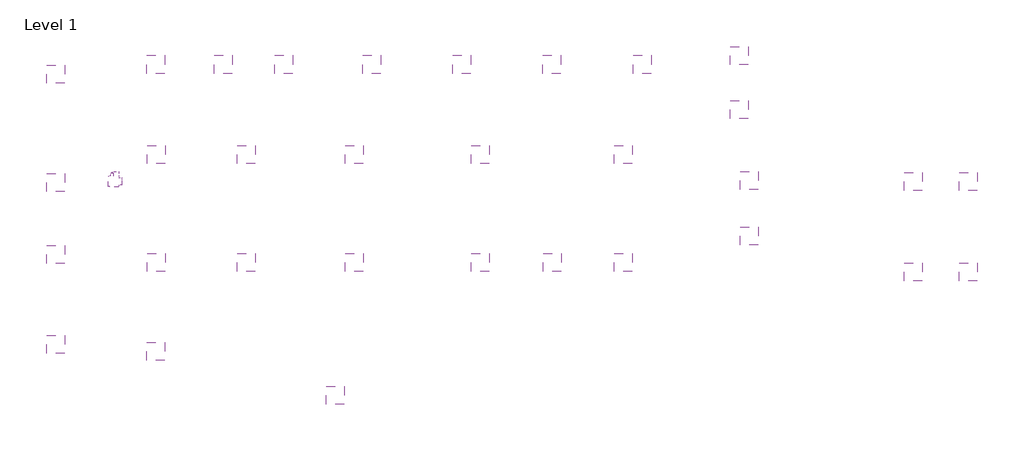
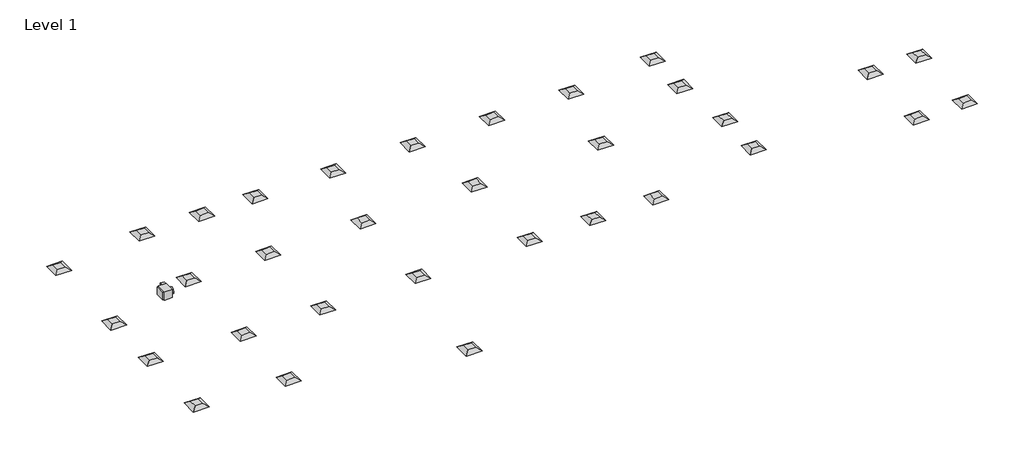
# One storey: 32 air terminals, 1 proxy.
"""IFC4 building model written with IfcOpenShell, lengths in millimetres."""

import ifcopenshell
import ifcopenshell.guid

model = None  # the IFC model being written
_history = None  # IfcOwnerHistory: only IFC2X3 demands one
_inside = {}  # id of a spatial element -> (the spatial element, [elements in it])
_under = {}  # id of a project, library or spatial element -> (it, [spatial elements below it])
_declared = {}  # id of a project -> (the project, [libraries it declares])
_typed = {}  # id of a type object -> (the type object, [elements of that type])
_made_of = {}  # id of a material, layer set ... -> (it, [elements and type objects made of it])


def new_model(schema):
    """Start an empty IFC model of exactly this schema.

    Asked for "IFC4X3", IfcOpenShell would pick the latest addendum, in which some entities
    have other attributes; the version numbers below select the first issue.
    IFC2X3 requires an IfcOwnerHistory on every rooted entity: one is made here for all.
    """
    global model, _history
    if schema == "IFC4X3":
        model = ifcopenshell.file(schema_version=(4, 3, 0, 0))
    else:
        model = ifcopenshell.file(schema=schema)
    _inside.clear()
    _under.clear()
    _declared.clear()
    _typed.clear()
    _made_of.clear()
    _history = None
    if model.schema == "IFC2X3":
        org = make("IfcOrganization", Name="unknown")
        user = make(
            "IfcPersonAndOrganization",
            ThePerson=make("IfcPerson", FamilyName="unknown"),
            TheOrganization=org,
        )
        app = make(
            "IfcApplication",
            ApplicationDeveloper=org,
            Version="unknown",
            ApplicationFullName="unknown",
            ApplicationIdentifier="unknown",
        )
        _history = make(
            "IfcOwnerHistory",
            OwningUser=user,
            OwningApplication=app,
            ChangeAction="ADDED",
            CreationDate=0,
        )
    return model


def make(cls, **values):
    """One entity of the class cls with the attributes given. An attribute that is None is left unset."""
    return model.create_entity(
        cls, **{name: value for name, value in values.items() if value is not None}
    )


def rooted(cls, **values):
    """An entity with a GlobalId (a new one), such as an element, a storey or a relation."""
    return make(cls, GlobalId=ifcopenshell.guid.new(), OwnerHistory=_history, **values)


def si_unit(unit_type, name, prefix=None):
    """IfcSIUnit, for example si_unit("LENGTHUNIT", "METRE", prefix="MILLI")."""
    return make("IfcSIUnit", UnitType=unit_type, Prefix=prefix, Name=name)


def assignment(units):
    """IfcUnitAssignment: the units of a project."""
    return None if units is None else make("IfcUnitAssignment", Units=units)


def point(xyz):
    """IfcCartesianPoint."""
    return None if xyz is None else make("IfcCartesianPoint", Coordinates=xyz)


def direction(xyz):
    """IfcDirection."""
    return None if xyz is None else make("IfcDirection", DirectionRatios=xyz)


def frame(location, z_axis=None, x_axis=None):
    """IfcAxis2Placement3D, a coordinate frame: its origin and axes. An axis left out is left unset."""
    return make(
        "IfcAxis2Placement3D",
        Location=point(location),
        Axis=direction(z_axis),
        RefDirection=direction(x_axis),
    )


def origin():
    """The frame at (0, 0, 0) with its axes left unset."""
    return frame((0.0, 0.0, 0.0))


def origin_with_axes():
    """The frame at (0, 0, 0) with the z axis (0, 0, 1) and the x axis (1, 0, 0) written out."""
    return frame((0.0, 0.0, 0.0), z_axis=(0.0, 0.0, 1.0), x_axis=(1.0, 0.0, 0.0))


def place(relative_to, where):
    """IfcLocalPlacement: puts the frame where relative to a parent placement (None: the world)."""
    return make(
        "IfcLocalPlacement", PlacementRelTo=relative_to, RelativePlacement=where
    )


def context(
    kind, dimensions, precision=None, world=None, true_north=None, identifier=None
):
    """IfcGeometricRepresentationContext, for example the 3D "Model" context."""
    return make(
        "IfcGeometricRepresentationContext",
        ContextIdentifier=identifier,
        ContextType=kind,
        CoordinateSpaceDimension=dimensions,
        Precision=precision,
        WorldCoordinateSystem=world,
        TrueNorth=true_north,
    )


def project(units=None, contexts=None):
    """IfcProject with its units and contexts."""
    return rooted(
        "IfcProject",
        Name="project",
        RepresentationContexts=contexts,
        UnitsInContext=assignment(units),
    )


def spatial(cls, under=None, at=None, **own):
    """A site, building, storey or space (cls), placed at a placement, below another one or the project."""
    s = rooted(cls, ObjectPlacement=at, **own)
    if under is not None:
        _under.setdefault(under.id(), (under, []))[1].append(s)
    return s


def polyline(points):
    """IfcPolyline through the points."""
    return make("IfcPolyline", Points=[point(p) for p in points])


def circle_curve(where, radius):
    """IfcCircle in the frame where."""
    return make("IfcCircle", Position=where, Radius=radius)


def outline(outer, holes=None, kind="AREA"):
    """IfcArbitraryClosedProfileDef: a profile drawn as a closed curve; with holes, ...WithVoids."""
    if holes is None:
        return make("IfcArbitraryClosedProfileDef", ProfileType=kind, OuterCurve=outer)
    return make(
        "IfcArbitraryProfileDefWithVoids",
        ProfileType=kind,
        OuterCurve=outer,
        InnerCurves=holes,
    )


def extrude(swept, where, along, depth):
    """IfcExtrudedAreaSolid: the profile swept, set in the frame where, extruded along a direction by depth."""
    return make(
        "IfcExtrudedAreaSolid",
        SweptArea=swept,
        Position=where,
        ExtrudedDirection=direction(along),
        Depth=depth,
    )


def faces_of(points, faces, orient=None, outer=None):
    """IfcFace entities. A face is a list of loops; a loop is a list of indices into points, from 0.

    orient and outer hold one flag for each loop. By default every Orientation is true, the
    first loop of a face is its IfcFaceOuterBound and the others are IfcFaceBound.
    """
    made = []
    for i, loops in enumerate(faces):
        bounds = []
        for j, loop in enumerate(loops):
            is_outer = j == 0 if outer is None else outer[i][j]
            bounds.append(
                make(
                    "IfcFaceOuterBound" if is_outer else "IfcFaceBound",
                    Bound=make("IfcPolyLoop", Polygon=[points[k] for k in loop]),
                    Orientation=True if orient is None else orient[i][j],
                )
            )
        made.append(make("IfcFace", Bounds=bounds))
    return made


def faceted_brep(points, faces, orient=None, outer=None, voids=None):
    """IfcFacetedBrep: a solid bounded by flat faces; with voids (closed shells), ...WithVoids."""
    shared = [point(p) for p in points]
    hull = make("IfcClosedShell", CfsFaces=faces_of(shared, faces, orient, outer))
    if voids is None:
        return make("IfcFacetedBrep", Outer=hull)
    return make(
        "IfcFacetedBrepWithVoids",
        Outer=hull,
        Voids=[
            make(cls, CfsFaces=faces_of(shared, fs, o, b)) for cls, fs, o, b in voids
        ],
    )


def shape(context_of_items, identifier, shape_type, items):
    """IfcShapeRepresentation: the items that make up one representation, for example the "Body"."""
    return make(
        "IfcShapeRepresentation",
        ContextOfItems=context_of_items,
        RepresentationIdentifier=identifier,
        RepresentationType=shape_type,
        Items=items,
    )


def source(mapping_origin, context_of_items, identifier, shape_type, items):
    """IfcRepresentationMap: a shape defined once, which mapped items show again and again."""
    return make(
        "IfcRepresentationMap",
        MappingOrigin=mapping_origin,
        MappedRepresentation=shape(context_of_items, identifier, shape_type, items),
    )


def transform(
    local_origin,
    x_axis=None,
    y_axis=None,
    z_axis=None,
    scale=None,
    scale2=None,
    scale3=None,
    uniform=True,
):
    """IfcCartesianTransformationOperator3D, or its non-uniform kind. x_axis, y_axis, z_axis: its Axis1, 2, 3."""
    if uniform:
        return make(
            "IfcCartesianTransformationOperator3D",
            Axis1=direction(x_axis),
            Axis2=direction(y_axis),
            LocalOrigin=point(local_origin),
            Scale=scale,
            Axis3=direction(z_axis),
        )
    return make(
        "IfcCartesianTransformationOperator3DnonUniform",
        Axis1=direction(x_axis),
        Axis2=direction(y_axis),
        LocalOrigin=point(local_origin),
        Scale=scale,
        Axis3=direction(z_axis),
        Scale2=scale2,
        Scale3=scale3,
    )


def mapped(mapping_source, mapping_target):
    """IfcMappedItem: shows the shape of a source again, moved by a transform."""
    return make(
        "IfcMappedItem", MappingSource=mapping_source, MappingTarget=mapping_target
    )


def made_of(thing, what):
    """Note that an element or type object is made of a material, layer set ...; save() writes the relation."""
    if what is not None:
        _made_of.setdefault(what.id(), (what, []))[1].append(thing)
    return thing


def element(
    cls,
    number,
    at=None,
    inside=None,
    cuts=None,
    type_object=None,
    material=None,
    context=None,
    identifier="Body",
    shape_type=None,
    held_by="IfcProductDefinitionShape",
    body=None,
    shapes=None,
    **own,
):
    """One element of the class cls, such as IfcWall. Its Tag is "e" and its number.

    at: its placement. inside: the storey or other place that contains it. cuts: it is an
    opening in that element (IfcRelVoidsElement). A single representation is given by context,
    identifier, shape_type and body (its items); several are given by shapes. held_by: the class
    of the entity that holds the representations. save() writes the other relations.
    """
    e = rooted(cls, Tag="e%d" % number, ObjectPlacement=at, **own)
    if body is not None:
        shapes = [shape(context, identifier, shape_type, body)]
    if shapes is not None:
        e.Representation = make(held_by, Representations=shapes)
    if inside is not None:
        _inside.setdefault(inside.id(), (inside, []))[1].append(e)
    if cuts is not None:
        rooted(
            "IfcRelVoidsElement", RelatingBuildingElement=cuts, RelatedOpeningElement=e
        )
    if type_object is not None:
        _typed.setdefault(type_object.id(), (type_object, []))[1].append(e)
    return made_of(e, material)


def aggregate(whole, parts):
    """IfcRelAggregates: a whole, such as a stair, and the parts it consists of."""
    return rooted("IfcRelAggregates", RelatingObject=whole, RelatedObjects=parts)


def save(model, path):
    """Write the relations noted so far, then the file.

    IfcRelAggregates (storeys below a building ...), IfcRelContainedInSpatialStructure (elements
    in a storey), IfcRelDefinesByType, IfcRelAssociatesMaterial and IfcRelDeclares: one each for
    every whole, place, type object, material and project.
    """
    for whole, parts in _under.values():
        aggregate(whole, parts)
    for where, things in _inside.values():
        rooted(
            "IfcRelContainedInSpatialStructure",
            RelatedElements=things,
            RelatingStructure=where,
        )
    for kind, things in _typed.values():
        rooted("IfcRelDefinesByType", RelatedObjects=things, RelatingType=kind)
    for what, things in _made_of.values():
        rooted("IfcRelAssociatesMaterial", RelatedObjects=things, RelatingMaterial=what)
    for by, libraries in _declared.values():
        rooted("IfcRelDeclares", RelatingContext=by, RelatedDefinitions=libraries)
    model.write(path)


def plane_surface(at):
    """IfcPlane: the flat surface through the origin of the frame at, square to its z axis."""
    return make("IfcPlane", Position=at)


def cylinder_surface(at, radius):
    """IfcCylindricalSurface: all points at the distance radius from the z axis of the frame at."""
    return make("IfcCylindricalSurface", Position=at, Radius=radius)


def advanced_brep(points, edges, surfaces, faces):
    """IfcAdvancedBrep: a solid bounded by faces that lie on surfaces and meet in shared edges.

    An edge is (start, end): straight between two places in points (the first is 0);
    or (start, end, curve); or (start, end, curve, False) where it runs against its curve.
    A face is (place in surfaces, loops), or (place, loops, False) where it looks against
    its surface's normal. A loop lists edges by number (the first is 1), with a minus sign
    where the edge is run from its end to its start. The first loop is the outer one.
    """
    corners = [point(p) for p in points]
    vertices = [make("IfcVertexPoint", VertexGeometry=c) for c in corners]
    made = []
    for start, end, *more in edges:
        made.append(
            make(
                "IfcEdgeCurve",
                EdgeStart=vertices[start],
                EdgeEnd=vertices[end],
                EdgeGeometry=more[0] if more else make("IfcPolyline", Points=[corners[start], corners[end]]),
                SameSense=more[1] if len(more) > 1 else True,
            )
        )
    hull = []
    for where, loops, *sense in faces:
        bounds = []
        for j, loop in enumerate(loops):
            ring = [make("IfcOrientedEdge", EdgeElement=made[abs(k) - 1], Orientation=k > 0) for k in loop]
            bounds.append(
                make(
                    "IfcFaceOuterBound" if j == 0 else "IfcFaceBound",
                    Bound=make("IfcEdgeLoop", EdgeList=ring),
                    Orientation=True,
                )
            )
        hull.append(make("IfcAdvancedFace", Bounds=bounds, FaceSurface=surfaces[where], SameSense=sense[0] if sense else True))
    return make("IfcAdvancedBrep", Outer=make("IfcClosedShell", CfsFaces=hull))


def return_diffuser_hosted_workplane_based_return_diffuser_7695a80a(model_context):
    return source(origin(), model_context, "Body", "Brep", [
        faceted_brep([(304.8, 304.8, 0.0), (-304.8, 304.8, 0.0), (-304.8, -304.8, 0.0), (304.8, -304.8, 0.0), (152.4, 152.4, -101.8523776), (152.4, -152.4, -101.8523776), (-152.4, -152.4, -101.8523776), (-152.4, 152.4, -101.8523776)], [[[0, 1, 2, 3]], [[4, 5, 6, 7]], [[4, 7, 1, 0]], [[7, 6, 2, 1]], [[6, 5, 3, 2]], [[5, 4, 0, 3]]]),
    ])


def proxy_022f47ab(model_context):
    return source(origin(), model_context, "Body", "SolidModel", [
        advanced_brep(
        [(266.7, -285.75, 212.725), (177.8, -285.75, 212.725), (177.8, -285.75, 111.125), (266.7, -285.75, 111.125), (228.6, -285.75, 161.925), (215.9, -285.75, 161.925), (266.7, -196.85, 212.725), (266.7, -196.85, 111.125), (177.8, -196.85, 111.125), (177.8, -196.85, 212.725), (215.9, -323.85, 161.925), (228.6, -323.85, 161.925)],
        [
            (0, 1),
            (1, 2),
            (2, 3),
            (3, 0),
            (4, 5, circle_curve(frame((222.25, -285.75, 161.925), z_axis=(0.0, 1.0, 0.0), x_axis=(1.0, 0.0, 0.0)), 6.35)),
            (5, 4, circle_curve(frame((222.25, -285.75, 161.925), z_axis=(0.0, 1.0, 0.0), x_axis=(1.0, 0.0, 0.0)), 6.35)),
            (6, 7),
            (7, 8),
            (8, 9),
            (9, 6),
            (0, 6),
            (9, 1),
            (8, 2),
            (7, 3),
            (10, 11, circle_curve(frame((222.25, -323.85, 161.925), z_axis=(0.0, -1.0, 0.0), x_axis=(1.0, 0.0, 0.0)), 6.35)),
            (11, 10, circle_curve(frame((222.25, -323.85, 161.925), z_axis=(0.0, -1.0, 0.0), x_axis=(1.0, 0.0, 0.0)), 6.35)),
            (10, 5),
            (4, 11),
        ],
        [
            plane_surface(frame((177.8, -285.75, 212.725), z_axis=(0.0, -1.0, 0.0), x_axis=(-1.0, 0.0, 0.0))),
            plane_surface(frame((177.8, -196.85, 212.725), z_axis=(0.0, 1.0, 0.0), x_axis=(1.0, 0.0, 0.0))),
            plane_surface(frame((266.7, -285.75, 212.725), z_axis=(0.0, 0.0, 1.0), x_axis=(0.0, 1.0, 0.0))),
            plane_surface(frame((177.8, -285.75, 212.725), z_axis=(-1.0, 0.0, 0.0), x_axis=(0.0, 1.0, 0.0))),
            plane_surface(frame((177.8, -285.75, 111.125), z_axis=(0.0, 0.0, -1.0), x_axis=(0.0, 1.0, 0.0))),
            plane_surface(frame((266.7, -285.75, 111.125), z_axis=(1.0, 0.0, 0.0), x_axis=(0.0, 1.0, 0.0))),
            plane_surface(frame((228.6, -323.85, 161.925), z_axis=(0.0, -1.0, 0.0), x_axis=(0.0, 0.0, 1.0))),
            cylinder_surface(frame((222.25, -196.85, 161.925), z_axis=(0.0, -1.0, 0.0), x_axis=(1.0, 0.0, 0.0)), 6.35),
        ],
        [
            (0, [[1, 2, 3, 4], [5, 6]]),
            (1, [[7, 8, 9, 10]]),
            (2, [[-1, 11, -10, 12]]),
            (3, [[-2, -12, -9, 13]]),
            (4, [[-3, -13, -8, 14]]),
            (5, [[-4, -14, -7, -11]]),
            (6, [[15, 16]]),
            (7, [[-15, 17, -5, 18]]),
            (7, [[-16, -18, -6, -17]]),
        ],
    ),
        faceted_brep([(355.6, 177.8, 323.85), (355.6, -177.8, 323.85), (355.6, -177.8, 19.05), (355.6, 177.8, 19.05), (304.8, 177.8, 323.85), (304.8, 177.8, 19.05), (304.8, -177.8, 19.05), (304.8, -177.8, 323.85)], [[[0, 1, 2, 3]], [[4, 5, 6, 7]], [[1, 0, 4, 7]], [[2, 1, 7, 6]], [[3, 2, 6, 5]], [[0, 3, 5, 4]]]),
        advanced_brep(
        [(0.0, -127.0, 161.925), (0.0, 127.0, 161.925), (-101.6, -127.0, 161.925), (-101.6, 127.0, 161.925)],
        [
            (0, 1, circle_curve(frame((0.0, 0.0, 161.925), z_axis=(1.0, 0.0, 0.0), x_axis=(0.0, 1.0, 0.0)), 127.0)),
            (1, 0, circle_curve(frame((0.0, 0.0, 161.925), z_axis=(1.0, 0.0, 0.0), x_axis=(0.0, 1.0, 0.0)), 127.0)),
            (2, 3, circle_curve(frame((-101.6, 0.0, 161.925), z_axis=(-1.0, 0.0, 0.0), x_axis=(0.0, 1.0, 0.0)), 127.0)),
            (3, 2, circle_curve(frame((-101.6, 0.0, 161.925), z_axis=(-1.0, 0.0, 0.0), x_axis=(0.0, 1.0, 0.0)), 127.0)),
            (0, 2),
            (3, 1),
        ],
        [
            plane_surface(frame((0.0, 127.0, 161.925), z_axis=(1.0, 0.0, 0.0), x_axis=(0.0, 0.0, 1.0))),
            plane_surface(frame((-101.6, 127.0, 161.925), z_axis=(-1.0, 0.0, 0.0), x_axis=(0.0, 0.0, -1.0))),
            cylinder_surface(frame((-101.6, 0.0, 161.925), z_axis=(1.0, 0.0, 0.0), x_axis=(0.0, 1.0, 0.0)), 127.0),
        ],
        [
            (0, [[1, 2]]),
            (1, [[3, 4]]),
            (2, [[-1, 5, -4, 6]]),
            (2, [[-2, -6, -3, -5]]),
        ],
    ),
        extrude(outline(polyline([(165.1, -336.55), (0.0, -336.55), (0.0, -196.85), (165.1, -196.85), (165.1, -336.55)])), frame((0.0, 0.0, 19.05), z_axis=(0.0, 0.0, 1.0), x_axis=(1.0, 0.0, 0.0)), (0.0, 0.0, 1.0), 304.8),
        extrude(outline(polyline([(304.8, 196.85), (304.8, -196.85), (0.0, -196.85), (0.0, 196.85), (304.8, 196.85)])), origin_with_axes(), (0.0, 0.0, 1.0), 342.9),
    ])


model = new_model("IFC4")

# Units and contexts
model_context = context("Model", 3, world=origin())
ifc_project = project(units=[si_unit("LENGTHUNIT", "METRE", prefix="MILLI")], contexts=[model_context])

# Site, building, storey
site = spatial("IfcSite", under=ifc_project)
building = spatial("IfcBuilding", under=site)
storey = spatial("IfcBuildingStorey", under=building, Name="Level 1", Elevation=0.0)

# Air terminals
placement = place(None, origin())
return_diffuser_hosted_workplane_based_return_diffuser_shape = return_diffuser_hosted_workplane_based_return_diffuser_7695a80a(model_context)
element("IfcAirTerminal", 1, ObjectType="Return Diffuser - Hosted : Workplane-based Return Diffuser", at=placement, inside=storey, context=model_context, shape_type="MappedRepresentation", body=[
    mapped(return_diffuser_hosted_workplane_based_return_diffuser_shape, transform((-21916.7339359, 10483.8984503, 2514.6), x_axis=(0.0, -1.0, 0.0), y_axis=(-1.0, 0.0, 0.0), z_axis=(0.0, 0.0, -1.0))),
])
element("IfcAirTerminal", 2, ObjectType="Return Diffuser - Hosted : Workplane-based Return Diffuser", at=placement, inside=storey, context=model_context, shape_type="MappedRepresentation", body=[
    mapped(return_diffuser_hosted_workplane_based_return_diffuser_shape, transform((-21916.7339359, 769.7410539, 2514.6), x_axis=(0.0, -1.0, 0.0), y_axis=(-1.0, 0.0, 0.0), z_axis=(0.0, 0.0, -1.0))),
])
element("IfcAirTerminal", 3, ObjectType="Return Diffuser - Hosted : Workplane-based Return Diffuser", at=placement, inside=storey, context=model_context, shape_type="MappedRepresentation", body=[
    mapped(return_diffuser_hosted_workplane_based_return_diffuser_shape, transform((5588.5753749, 6510.6674075, 2514.6), x_axis=(0.0, -1.0, 0.0), y_axis=(-1.0, 0.0, 0.0), z_axis=(0.0, 0.0, -1.0))),
])
element("IfcAirTerminal", 4, ObjectType="Return Diffuser - Hosted : Workplane-based Return Diffuser", at=placement, inside=storey, context=model_context, shape_type="MappedRepresentation", body=[
    mapped(return_diffuser_hosted_workplane_based_return_diffuser_shape, transform((-19630.7339359, 10483.8984503, 2514.6), x_axis=(0.0, -1.0, 0.0), y_axis=(-1.0, 0.0, 0.0), z_axis=(0.0, 0.0, -1.0))),
])
element("IfcAirTerminal", 5, ObjectType="Return Diffuser - Hosted : Workplane-based Return Diffuser", at=placement, inside=storey, context=model_context, shape_type="MappedRepresentation", body=[
    mapped(return_diffuser_hosted_workplane_based_return_diffuser_shape, transform((-8496.7251397, 3775.2315553, 2514.6), x_axis=(-1.0, 0.0, 0.0), y_axis=(0.0, 1.0, 0.0), z_axis=(0.0, 0.0, -1.0))),
])
element("IfcAirTerminal", 6, ObjectType="Supply Diffuser - Hosted : Workplane-based Supply Diffuser", at=placement, inside=storey, context=model_context, shape_type="MappedRepresentation", body=[
    mapped(return_diffuser_hosted_workplane_based_return_diffuser_shape, transform((-25309.6859678, 10145.7709948, 2514.6), x_axis=(-1.0, 0.0, 0.0), y_axis=(0.0, 1.0, 0.0), z_axis=(0.0, 0.0, -1.0))),
])
element("IfcAirTerminal", 7, ObjectType="Supply Diffuser - Hosted : Workplane-based Supply Diffuser", at=placement, inside=storey, context=model_context, shape_type="MappedRepresentation", body=[
    mapped(return_diffuser_hosted_workplane_based_return_diffuser_shape, transform((-25309.6859678, 6488.1709948, 2514.6), x_axis=(-1.0, 0.0, 0.0), y_axis=(0.0, 1.0, 0.0), z_axis=(0.0, 0.0, -1.0))),
])
element("IfcAirTerminal", 8, ObjectType="Supply Diffuser - Hosted : Workplane-based Supply Diffuser", at=placement, inside=storey, context=model_context, shape_type="MappedRepresentation", body=[
    mapped(return_diffuser_hosted_workplane_based_return_diffuser_shape, transform((-25309.6859678, 4049.7709948, 2514.6), x_axis=(-1.0, 0.0, 0.0), y_axis=(0.0, 1.0, 0.0), z_axis=(0.0, 0.0, -1.0))),
])
element("IfcAirTerminal", 9, ObjectType="Supply Diffuser - Hosted : Workplane-based Supply Diffuser", at=placement, inside=storey, context=model_context, shape_type="MappedRepresentation", body=[
    mapped(return_diffuser_hosted_workplane_based_return_diffuser_shape, transform((-25309.6859678, 1001.7709948, 2514.6), x_axis=(-1.0, 0.0, 0.0), y_axis=(0.0, 1.0, 0.0), z_axis=(0.0, 0.0, -1.0))),
])
element("IfcAirTerminal", 10, ObjectType="Supply Diffuser - Hosted : Workplane-based Supply Diffuser", at=placement, inside=storey, context=model_context, shape_type="MappedRepresentation", body=[
    mapped(return_diffuser_hosted_workplane_based_return_diffuser_shape, transform((-18859.9251397, 7432.8315553, 2514.6), x_axis=(-1.0, 0.0, 0.0), y_axis=(0.0, 1.0, 0.0), z_axis=(0.0, 0.0, -1.0))),
])
element("IfcAirTerminal", 11, ObjectType="Supply Diffuser - Hosted : Workplane-based Supply Diffuser", at=placement, inside=storey, context=model_context, shape_type="MappedRepresentation", body=[
    mapped(return_diffuser_hosted_workplane_based_return_diffuser_shape, transform((-15202.3251397, 7432.8315553, 2514.6), x_axis=(-1.0, 0.0, 0.0), y_axis=(0.0, 1.0, 0.0), z_axis=(0.0, 0.0, -1.0))),
])
element("IfcAirTerminal", 12, ObjectType="Supply Diffuser - Hosted : Workplane-based Supply Diffuser", at=placement, inside=storey, context=model_context, shape_type="MappedRepresentation", body=[
    mapped(return_diffuser_hosted_workplane_based_return_diffuser_shape, transform((-10935.1251397, 7432.8315553, 2514.6), x_axis=(-1.0, 0.0, 0.0), y_axis=(0.0, 1.0, 0.0), z_axis=(0.0, 0.0, -1.0))),
])
element("IfcAirTerminal", 13, ObjectType="Supply Diffuser - Hosted : Workplane-based Supply Diffuser", at=placement, inside=storey, context=model_context, shape_type="MappedRepresentation", body=[
    mapped(return_diffuser_hosted_workplane_based_return_diffuser_shape, transform((-6087.0836003, 7432.8315553, 2514.6), x_axis=(-1.0, 0.0, 0.0), y_axis=(0.0, 1.0, 0.0), z_axis=(0.0, 0.0, -1.0))),
])
element("IfcAirTerminal", 14, ObjectType="Supply Diffuser - Hosted : Workplane-based Supply Diffuser", at=placement, inside=storey, context=model_context, shape_type="MappedRepresentation", body=[
    mapped(return_diffuser_hosted_workplane_based_return_diffuser_shape, transform((-18859.9251397, 3775.2315553, 2514.6), x_axis=(-1.0, 0.0, 0.0), y_axis=(0.0, 1.0, 0.0), z_axis=(0.0, 0.0, -1.0))),
])
element("IfcAirTerminal", 15, ObjectType="Supply Diffuser - Hosted : Workplane-based Supply Diffuser", at=placement, inside=storey, context=model_context, shape_type="MappedRepresentation", body=[
    mapped(return_diffuser_hosted_workplane_based_return_diffuser_shape, transform((-15202.3251397, 3775.2315553, 2514.6), x_axis=(-1.0, 0.0, 0.0), y_axis=(0.0, 1.0, 0.0), z_axis=(0.0, 0.0, -1.0))),
])
element("IfcAirTerminal", 16, ObjectType="Supply Diffuser - Hosted : Workplane-based Supply Diffuser", at=placement, inside=storey, context=model_context, shape_type="MappedRepresentation", body=[
    mapped(return_diffuser_hosted_workplane_based_return_diffuser_shape, transform((-10935.1251397, 3775.2315553, 2514.6), x_axis=(-1.0, 0.0, 0.0), y_axis=(0.0, 1.0, 0.0), z_axis=(0.0, 0.0, -1.0))),
])
element("IfcAirTerminal", 17, ObjectType="Supply Diffuser - Hosted : Workplane-based Supply Diffuser", at=placement, inside=storey, context=model_context, shape_type="MappedRepresentation", body=[
    mapped(return_diffuser_hosted_workplane_based_return_diffuser_shape, transform((-6087.0836003, 3775.2315553, 2514.6), x_axis=(-1.0, 0.0, 0.0), y_axis=(0.0, 1.0, 0.0), z_axis=(0.0, 0.0, -1.0))),
])
element("IfcAirTerminal", 18, ObjectType="Supply Diffuser - Hosted : Workplane-based Supply Diffuser", at=placement, inside=storey, context=model_context, shape_type="MappedRepresentation", body=[
    mapped(return_diffuser_hosted_workplane_based_return_diffuser_shape, transform((-21907.9251397, 7432.8315553, 2514.6), x_axis=(-1.0, 0.0, 0.0), y_axis=(0.0, 1.0, 0.0), z_axis=(0.0, 0.0, -1.0))),
])
element("IfcAirTerminal", 19, ObjectType="Supply Diffuser - Hosted : Workplane-based Supply Diffuser", at=placement, inside=storey, context=model_context, shape_type="MappedRepresentation", body=[
    mapped(return_diffuser_hosted_workplane_based_return_diffuser_shape, transform((-21907.9251397, 3775.2315553, 2514.6), x_axis=(-1.0, 0.0, 0.0), y_axis=(0.0, 1.0, 0.0), z_axis=(0.0, 0.0, -1.0))),
])
element("IfcAirTerminal", 20, ObjectType="Supply Diffuser - Hosted : Workplane-based Supply Diffuser", at=placement, inside=storey, context=model_context, shape_type="MappedRepresentation", body=[
    mapped(return_diffuser_hosted_workplane_based_return_diffuser_shape, transform((-8507.2525169, 10483.8984503, 2514.6), x_axis=(0.0, -1.0, 0.0), y_axis=(-1.0, 0.0, 0.0), z_axis=(0.0, 0.0, -1.0))),
])
element("IfcAirTerminal", 21, ObjectType="Supply Diffuser - Hosted : Workplane-based Supply Diffuser", at=placement, inside=storey, context=model_context, shape_type="MappedRepresentation", body=[
    mapped(return_diffuser_hosted_workplane_based_return_diffuser_shape, transform((-5459.2525169, 10483.8984503, 2514.6), x_axis=(0.0, -1.0, 0.0), y_axis=(-1.0, 0.0, 0.0), z_axis=(0.0, 0.0, -1.0))),
])
element("IfcAirTerminal", 22, ObjectType="Supply Diffuser - Hosted : Workplane-based Supply Diffuser", at=placement, inside=storey, context=model_context, shape_type="MappedRepresentation", body=[
    mapped(return_diffuser_hosted_workplane_based_return_diffuser_shape, transform((-15840.2163074, -721.0697729, 2514.6), x_axis=(-1.0, 0.0, 0.0), y_axis=(0.0, 1.0, 0.0), z_axis=(0.0, 0.0, -1.0))),
])
element("IfcAirTerminal", 23, ObjectType="Supply Diffuser - Hosted : Workplane-based Supply Diffuser", at=placement, inside=storey, context=model_context, shape_type="MappedRepresentation", body=[
    mapped(return_diffuser_hosted_workplane_based_return_diffuser_shape, transform((-2169.6824517, 10786.7852219, 2514.6), x_axis=(0.0, -1.0, 0.0), y_axis=(-1.0, 0.0, 0.0), z_axis=(0.0, 0.0, -1.0))),
])
element("IfcAirTerminal", 24, ObjectType="Supply Diffuser - Hosted : Workplane-based Supply Diffuser", at=placement, inside=storey, context=model_context, shape_type="MappedRepresentation", body=[
    mapped(return_diffuser_hosted_workplane_based_return_diffuser_shape, transform((-2169.6824517, 8957.9852219, 2514.6), x_axis=(0.0, -1.0, 0.0), y_axis=(-1.0, 0.0, 0.0), z_axis=(0.0, 0.0, -1.0))),
])
element("IfcAirTerminal", 25, ObjectType="Supply Diffuser - Hosted : Workplane-based Supply Diffuser", at=placement, inside=storey, context=model_context, shape_type="MappedRepresentation", body=[
    mapped(return_diffuser_hosted_workplane_based_return_diffuser_shape, transform((-1831.3915429, 6549.6522814, 2514.6), x_axis=(-1.0, 0.0, 0.0), y_axis=(0.0, 1.0, 0.0), z_axis=(0.0, 0.0, -1.0))),
])
element("IfcAirTerminal", 26, ObjectType="Supply Diffuser - Hosted : Workplane-based Supply Diffuser", at=placement, inside=storey, context=model_context, shape_type="MappedRepresentation", body=[
    mapped(return_diffuser_hosted_workplane_based_return_diffuser_shape, transform((-1831.3915429, 4667.5318675, 2514.6), x_axis=(-1.0, 0.0, 0.0), y_axis=(0.0, 1.0, 0.0), z_axis=(0.0, 0.0, -1.0))),
])
element("IfcAirTerminal", 27, ObjectType="Supply Diffuser - Hosted : Workplane-based Supply Diffuser", at=placement, inside=storey, context=model_context, shape_type="MappedRepresentation", body=[
    mapped(return_diffuser_hosted_workplane_based_return_diffuser_shape, transform((3722.2049459, 6509.0041218, 2514.6), x_axis=(-1.0, 0.0, 0.0), y_axis=(0.0, 1.0, 0.0), z_axis=(0.0, 0.0, -1.0))),
])
element("IfcAirTerminal", 28, ObjectType="Supply Diffuser - Hosted : Workplane-based Supply Diffuser", at=placement, inside=storey, context=model_context, shape_type="MappedRepresentation", body=[
    mapped(return_diffuser_hosted_workplane_based_return_diffuser_shape, transform((3722.2049459, 3455.2867041, 2514.6), x_axis=(-1.0, 0.0, 0.0), y_axis=(0.0, 1.0, 0.0), z_axis=(0.0, 0.0, -1.0))),
])
element("IfcAirTerminal", 29, ObjectType="Supply Diffuser - Hosted : Workplane-based Supply Diffuser", at=placement, inside=storey, context=model_context, shape_type="MappedRepresentation", body=[
    mapped(return_diffuser_hosted_workplane_based_return_diffuser_shape, transform((5576.4253448, 3455.2867041, 2514.6), x_axis=(-1.0, 0.0, 0.0), y_axis=(0.0, 1.0, 0.0), z_axis=(0.0, 0.0, -1.0))),
])
element("IfcAirTerminal", 30, ObjectType="Supply Diffuser - Hosted : Workplane-based Supply Diffuser", at=placement, inside=storey, context=model_context, shape_type="MappedRepresentation", body=[
    mapped(return_diffuser_hosted_workplane_based_return_diffuser_shape, transform((-17582.7136447, 10483.8984503, 2514.6), x_axis=(0.0, -1.0, 0.0), y_axis=(-1.0, 0.0, 0.0), z_axis=(0.0, 0.0, -1.0))),
])
element("IfcAirTerminal", 31, ObjectType="Supply Diffuser - Hosted : Workplane-based Supply Diffuser", at=placement, inside=storey, context=model_context, shape_type="MappedRepresentation", body=[
    mapped(return_diffuser_hosted_workplane_based_return_diffuser_shape, transform((-14603.2525169, 10483.8984503, 2514.6), x_axis=(0.0, -1.0, 0.0), y_axis=(-1.0, 0.0, 0.0), z_axis=(0.0, 0.0, -1.0))),
])
element("IfcAirTerminal", 32, ObjectType="Supply Diffuser - Hosted : Workplane-based Supply Diffuser", at=placement, inside=storey, context=model_context, shape_type="MappedRepresentation", body=[
    mapped(return_diffuser_hosted_workplane_based_return_diffuser_shape, transform((-11555.2525169, 10483.8984503, 2514.6), x_axis=(0.0, -1.0, 0.0), y_axis=(-1.0, 0.0, 0.0), z_axis=(0.0, 0.0, -1.0))),
])

# Proxy
proxy_shape = proxy_022f47ab(model_context)
element("IfcBuildingElementProxy", 33, Name="VAV Unit - Single Duct : 10\"", ObjectType="VAV Unit - Single Duct : 10\"", at=placement, inside=storey, context=model_context, shape_type="MappedRepresentation", body=[
    mapped(proxy_shape, transform((-23172.693061, 6517.8145825, 2895.6), x_axis=(-1.0, 0.0, 0.0), y_axis=(0.0, -1.0, 0.0), z_axis=(0.0, 0.0, 1.0))),
])

save(model, "model.ifc")
